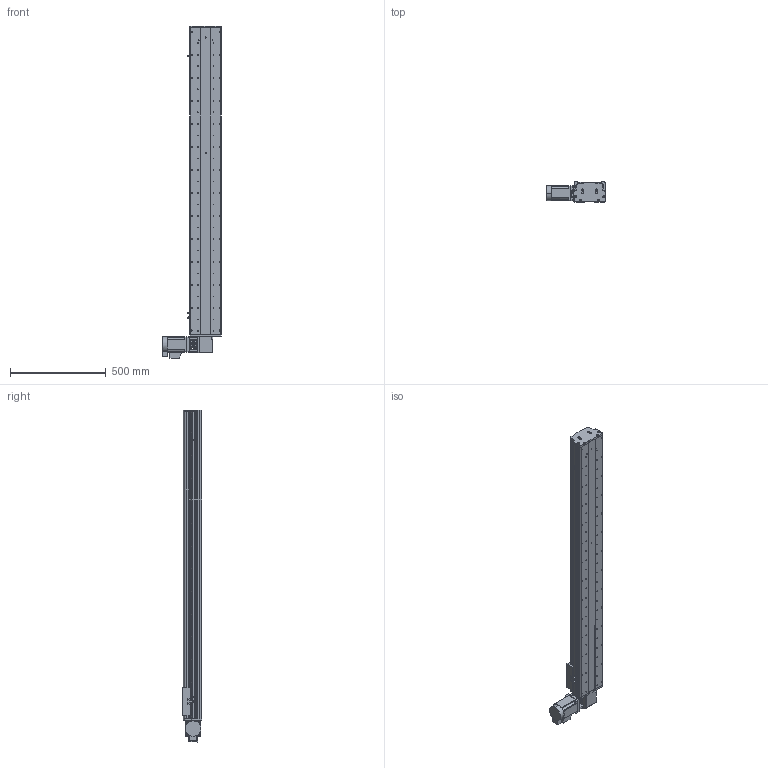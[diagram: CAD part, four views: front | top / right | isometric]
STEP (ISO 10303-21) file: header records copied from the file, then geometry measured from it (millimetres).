
FILE_DESCRIPTION (( 'STEP AP214' ), '1' );
FILE_NAME ('KSD165B-S1350-MRT-CM.STEP', '2017-10-17T01:42:31', ( '微软用户' ), ( '微软中国' ), 'SwSTEP 2.0', 'SolidWorks 2014', '' );
FILE_SCHEMA (( 'AUTOMOTIVE_DESIGN' ));
Length unit declared in the file: millimetre
Products named in the file (16): KSD165耀郪-ヶ傷啣1-肮祭湍; KSD165模组-后端板1-同步带; 130宽马达安装板1-带电机座750W（1）; KSD165模组-同步带滑动座-最新版; KSD165B-S1350-MRT-CM; 165宽马达安装板同步带左-改; KSD165模组-同步带防尘盖1-1350行程; KSD165模组同步带底板-1350行程; 拸秶雄ん750W侜督萇儂; 165宽安装板同步带带电机座750W; C39ㄜ1419WP; U倰嫖萇假蚾璃; U倰嫖萇EEㄜSX672; 覜茼え68遵圉猾敕; KSD165模组-同步带-防撞垫2; KSD165模组同步带-防撞垫1
Assembly tree (19 placements, depth 2):
  KSD165B-S1350-MRT-CM
    KSD165模组-同步带滑动座-最新版
    130宽马达安装板1-带电机座750W（1）
    KSD165模组-后端板1-同步带
    KSD165耀郪-ヶ傷啣1-肮祭湍
    KSD165模组同步带-防撞垫1
    KSD165模组-同步带-防撞垫2
    覜茼え68遵圉猾敕
    U倰嫖萇EEㄜSX672  x3
    U倰嫖萇假蚾璃  x3
    C39ㄜ1419WP
    165宽安装板同步带带电机座750W
    拸秶雄ん750W侜督萇儂
    KSD165模组同步带底板-1350行程
    KSD165模组-同步带防尘盖1-1350行程
    165宽马达安装板同步带左-改
Bounding box: 307.5 x 104 x 1731.06 mm (x, y, z)
Volume: 9463899.4 mm3; surface area: 2154466.2 mm2
Topology: 20 solids, 21 shells, 1572 faces, 4386 edges, 2845 vertices
Faces by surface type: cylinder 889, plane 589, cone 94
Entity records: 50795 total; most frequent: CARTESIAN_POINT 10627, DIRECTION 7864, ORIENTED_EDGE 7424, EDGE_CURVE 3712, AXIS2_PLACEMENT_3D 3010, VERTEX_POINT 2437, LINE 1844, VECTOR 1844
